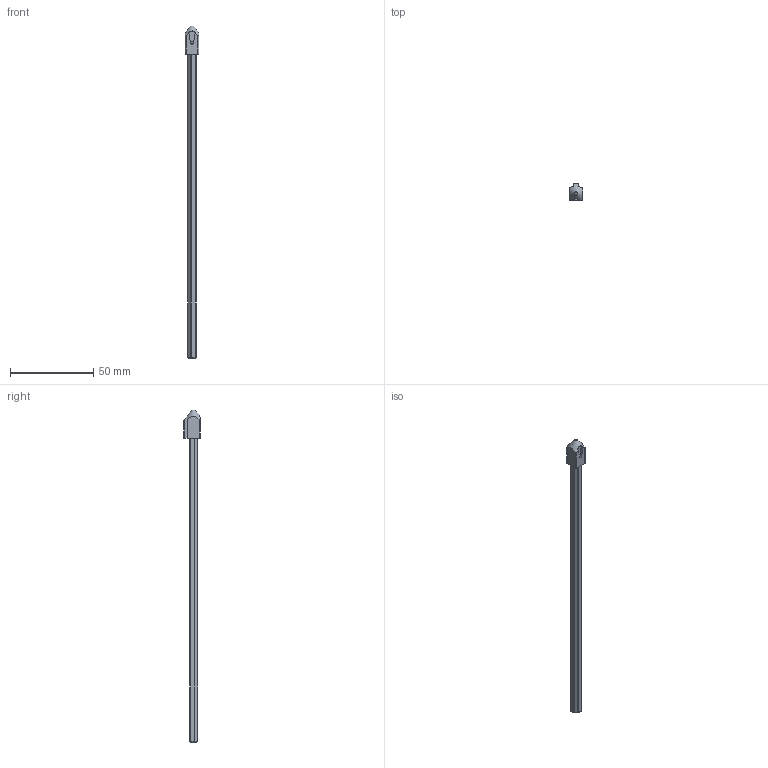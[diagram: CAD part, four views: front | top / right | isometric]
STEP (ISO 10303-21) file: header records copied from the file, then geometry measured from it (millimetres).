
FILE_DESCRIPTION (( 'STEP AP203' ), '1' );
FILE_NAME ('Âàë OptiSwitch DI-16-63 200ìì (äëÿ OptiSwitch DI-16-63Ñ).STEP', '2023-03-23T20:28:24', ( 'Ïîëüçîâàòåëü' ), ( '' ), 'SwSTEP 2.0', 'SolidWorks 2018', '' );
FILE_SCHEMA (( 'CONFIG_CONTROL_DESIGN' ));
Length unit declared in the file: millimetre
Products named in the file (2): Âàë OptiSwitch DI-16-63 200ìì (äëÿ OptiSwitch DI-16-63Ñ); Âàë OptiSwitch DI-16-125 200ìì
Assembly tree (1 placements, depth 2):
  Âàë OptiSwitch DI-16-63 200ìì (äëÿ OptiSwitch DI-16-63Ñ)
    Âàë OptiSwitch DI-16-125 200ìì
Bounding box: 8 x 10 x 200 mm (x, y, z)
Volume: 5005.4 mm3; surface area: 3893.8 mm2
Topology: 1 solids, 1 shells, 45 faces, 113 edges, 68 vertices
Faces by surface type: plane 20, cylinder 19, sphere 5, cone 1
Full cylindrical faces by diameter (mm): 1.7 x1
Entity records: 1585 total; most frequent: CARTESIAN_POINT 370, DIRECTION 217, ORIENTED_EDGE 210, EDGE_CURVE 105, AXIS2_PLACEMENT_3D 81, VERTEX_POINT 66, VECTOR 55, LINE 55
